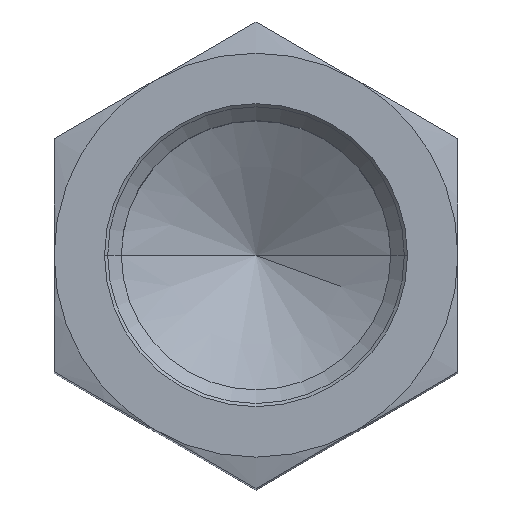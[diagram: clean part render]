
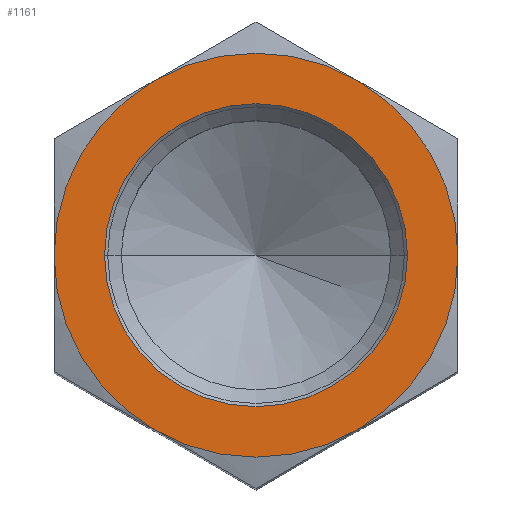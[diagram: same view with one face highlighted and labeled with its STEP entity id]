
A CAD part, top view. The second image highlights one B-rep face of the part: STEP entity #1161.
In plain terms, the highlighted planar face has unit normal (0, 0, 1).
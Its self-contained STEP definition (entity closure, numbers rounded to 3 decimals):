
#528=CARTESIAN_POINT('',(0.,0.,85.));
#529=DIRECTION('',(0.,0.,-1.));
#530=DIRECTION('',(1.,0.,0.));
#531=AXIS2_PLACEMENT_3D('',#528,#529,#530);
#536=CARTESIAN_POINT('',(0.,0.,85.));
#537=DIRECTION('',(0.,0.,-1.));
#538=DIRECTION('',(0.5,-0.866,0.));
#539=AXIS2_PLACEMENT_3D('',#536,#537,#538);
#544=CARTESIAN_POINT('',(0.,0.,85.));
#545=DIRECTION('',(0.,0.,-1.));
#546=DIRECTION('',(-0.5,-0.866,0.));
#547=AXIS2_PLACEMENT_3D('',#544,#545,#546);
#552=CARTESIAN_POINT('',(0.,0.,85.));
#553=DIRECTION('',(0.,0.,-1.));
#554=DIRECTION('',(-1.,0.,0.));
#555=AXIS2_PLACEMENT_3D('',#552,#553,#554);
#560=CARTESIAN_POINT('',(0.,0.,85.));
#561=DIRECTION('',(0.,0.,-1.));
#562=DIRECTION('',(-0.5,0.866,0.));
#563=AXIS2_PLACEMENT_3D('',#560,#561,#562);
#568=CARTESIAN_POINT('',(0.,0.,85.));
#569=DIRECTION('',(0.,0.,-1.));
#570=DIRECTION('',(0.5,0.866,0.));
#571=AXIS2_PLACEMENT_3D('',#568,#569,#570);
#576=CARTESIAN_POINT('',(0.,0.,85.));
#577=DIRECTION('',(0.,0.,1.));
#578=DIRECTION('',(-1.,0.,0.));
#579=AXIS2_PLACEMENT_3D('',#576,#577,#578);
#584=CARTESIAN_POINT('',(0.,0.,85.));
#585=DIRECTION('',(0.,0.,1.));
#586=DIRECTION('',(1.,0.,0.));
#587=AXIS2_PLACEMENT_3D('',#584,#585,#586);
#827=CARTESIAN_POINT('',(18.,0.,85.));
#828=CARTESIAN_POINT('',(9.,-15.588,85.));
#829=VERTEX_POINT('',#827);
#830=VERTEX_POINT('',#828);
#831=CARTESIAN_POINT('',(-9.,-15.588,85.));
#832=VERTEX_POINT('',#831);
#833=CARTESIAN_POINT('',(-18.,0.,85.));
#834=VERTEX_POINT('',#833);
#835=CARTESIAN_POINT('',(-9.,15.588,85.));
#836=VERTEX_POINT('',#835);
#837=CARTESIAN_POINT('',(9.,15.588,85.));
#838=VERTEX_POINT('',#837);
#867=CARTESIAN_POINT('',(-13.5,0.,85.));
#868=CARTESIAN_POINT('',(13.5,0.,85.));
#869=VERTEX_POINT('',#867);
#870=VERTEX_POINT('',#868);
#1139=CARTESIAN_POINT('',(0.,0.,85.));
#1140=DIRECTION('',(0.,0.,1.));
#1141=DIRECTION('',(1.,0.,0.));
#1142=AXIS2_PLACEMENT_3D('',#1139,#1140,#1141);
#1143=PLANE('',#1142);
#1145=ORIENTED_EDGE('',*,*,#1144,.T.);
#1147=ORIENTED_EDGE('',*,*,#1146,.T.);
#1149=ORIENTED_EDGE('',*,*,#1148,.T.);
#1150=ORIENTED_EDGE('',*,*,#1110,.T.);
#1151=ORIENTED_EDGE('',*,*,#1122,.T.);
#1152=ORIENTED_EDGE('',*,*,#1134,.T.);
#1153=EDGE_LOOP('',(#1145,#1147,#1149,#1150,#1151,#1152));
#1154=FACE_OUTER_BOUND('',#1153,.F.);
#1156=ORIENTED_EDGE('',*,*,#1155,.T.);
#1158=ORIENTED_EDGE('',*,*,#1157,.T.);
#1159=EDGE_LOOP('',(#1156,#1158));
#1160=FACE_BOUND('',#1159,.F.);
#532=CIRCLE('',#531,18.);
#540=CIRCLE('',#539,18.);
#548=CIRCLE('',#547,18.);
#556=CIRCLE('',#555,18.);
#564=CIRCLE('',#563,18.);
#572=CIRCLE('',#571,18.);
#580=CIRCLE('',#579,13.5);
#588=CIRCLE('',#587,13.5);
#1110=EDGE_CURVE('',#834,#836,#556,.T.);
#1122=EDGE_CURVE('',#836,#838,#564,.T.);
#1134=EDGE_CURVE('',#838,#829,#572,.T.);
#1144=EDGE_CURVE('',#829,#830,#532,.T.);
#1146=EDGE_CURVE('',#830,#832,#540,.T.);
#1148=EDGE_CURVE('',#832,#834,#548,.T.);
#1155=EDGE_CURVE('',#869,#870,#580,.T.);
#1157=EDGE_CURVE('',#870,#869,#588,.T.);
#1161=ADVANCED_FACE('',(#1154,#1160),#1143,.T.);
